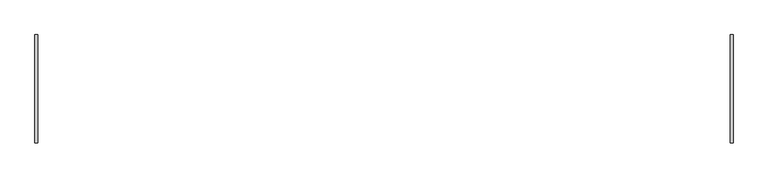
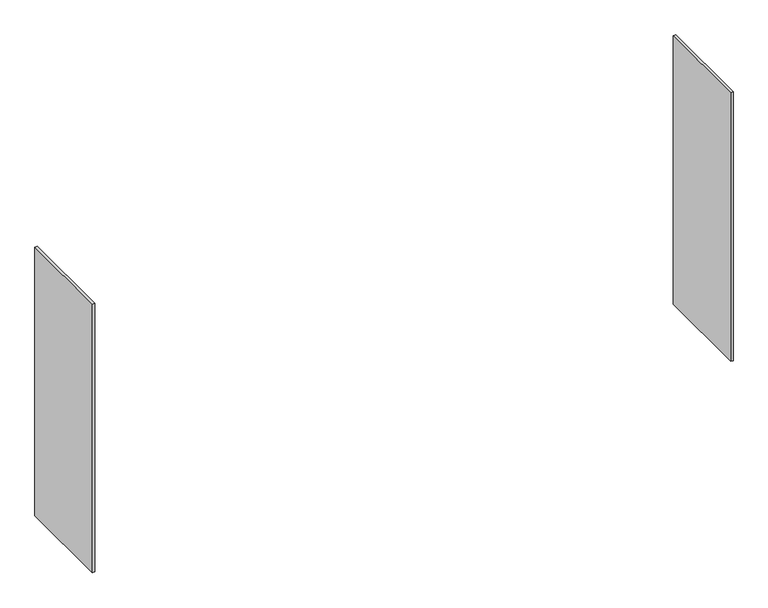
"""IFC4 building model written with IfcOpenShell, lengths in millimetres: furniture geometry, Lockers-Bay-Duracube-Duraloc : LBM-1900h x 500d x 400w with 470h Bench."""

from ifc_helpers import new_model, si_unit, frame, origin, place, context, project, spatial, polyline, outline, extrude, source, transform, mapped, element, save


def furniture_05545089(model_context):
    return source(origin(), model_context, "Body", "SweptSolid", [
        extrude(outline(polyline([(3213.0, 250.0), (3226.0, 250.0), (3226.0, -250.0), (3213.0, -250.0), (3213.0, 250.0)])), frame((0.0, 0.0, 470.0), z_axis=(0.0, 0.0, 1.0), x_axis=(1.0, 0.0, 0.0)), (0.0, 0.0, 1.0), 1430.0),
        extrude(outline(polyline([(0.0, 250.0), (13.0, 250.0), (13.0, -250.0), (0.0, -250.0), (0.0, 250.0)])), frame((0.0, 0.0, 470.0), z_axis=(0.0, 0.0, 1.0), x_axis=(1.0, 0.0, 0.0)), (0.0, 0.0, 1.0), 1430.0),
    ])


if __name__ == "__main__":
    model = new_model("IFC4")
    model_context = context("Model", 3, world=origin())
    ifc_project = project(units=[si_unit("LENGTHUNIT", "METRE", prefix="MILLI")], contexts=[model_context])
    site = spatial("IfcSite", under=ifc_project)
    building = spatial("IfcBuilding", under=site)
    placement = place(None, origin())
    furniture_shape = furniture_05545089(model_context)
    element("IfcFurniture", 1, ObjectType="Lockers-Bay-Duracube-Duraloc : LBM-1900h x 500d x 400w with 470h Bench", at=placement, inside=building, context=model_context, shape_type="MappedRepresentation", body=[
        mapped(furniture_shape, transform((0.0, 0.0, 0.0), x_axis=(1.0, 0.0, 0.0), y_axis=(0.0, 1.0, 0.0), z_axis=(0.0, 0.0, 1.0))),
    ])
    save(model, "model.ifc")
